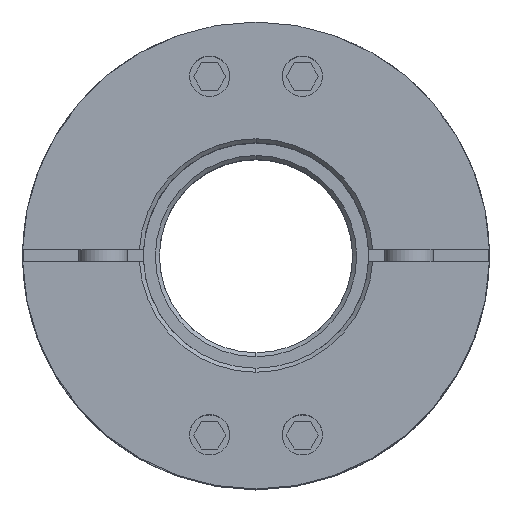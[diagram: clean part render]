
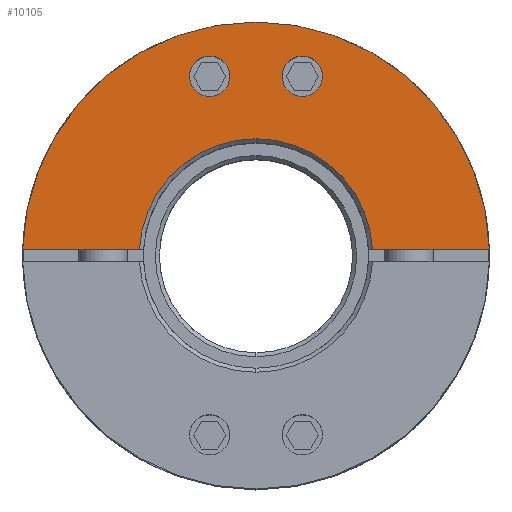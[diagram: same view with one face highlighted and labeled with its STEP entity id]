
A CAD part, top view. The second image highlights one B-rep face of the part: STEP entity #10105.
In plain terms, the highlighted planar face has unit normal (0, 0, 1).
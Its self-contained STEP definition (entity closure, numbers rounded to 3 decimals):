
#6419=CARTESIAN_POINT('',(5.759,24.767,35.75));
#6420=VERTEX_POINT('',#6419);
#6429=CARTESIAN_POINT('',(5.759,19.767,35.75));
#6430=VERTEX_POINT('',#6429);
#6431=CARTESIAN_POINT('',(5.759,22.267,35.75));
#6432=DIRECTION('',(0.0,0.0,-1.0));
#6433=DIRECTION('',(0.0,1.0,0.0));
#6434=AXIS2_PLACEMENT_3D('',#6431,#6432,#6433);
#6435=CIRCLE('',#6434,2.5);
#6436=EDGE_CURVE('',#6430,#6420,#6435,.T.);
#6461=CARTESIAN_POINT('',(-5.759,24.767,35.75));
#6462=VERTEX_POINT('',#6461);
#6471=CARTESIAN_POINT('',(-5.759,19.767,35.75));
#6472=VERTEX_POINT('',#6471);
#6473=CARTESIAN_POINT('',(-5.759,22.267,35.75));
#6474=DIRECTION('',(0.0,0.0,-1.0));
#6475=DIRECTION('',(0.0,1.0,0.0));
#6476=AXIS2_PLACEMENT_3D('',#6473,#6474,#6475);
#6477=CIRCLE('',#6476,2.5);
#6478=EDGE_CURVE('',#6472,#6462,#6477,.T.);
#6715=CARTESIAN_POINT('',(0.,29.0,35.75));
#6716=VERTEX_POINT('',#6715);
#6864=CARTESIAN_POINT('',(-28.99,0.75,35.75));
#6865=VERTEX_POINT('',#6864);
#6872=CARTESIAN_POINT('',(0.,0.0,35.75));
#6873=DIRECTION('',(0.0,0.0,-1.0));
#6874=DIRECTION('',(0.0,1.0,0.0));
#6875=AXIS2_PLACEMENT_3D('',#6872,#6873,#6874);
#6876=CIRCLE('',#6875,29.0);
#6877=EDGE_CURVE('',#6865,#6716,#6876,.T.);
#7045=CARTESIAN_POINT('',(0.,14.5,35.75));
#7046=VERTEX_POINT('',#7045);
#7062=CARTESIAN_POINT('',(14.481,0.75,35.75));
#7063=VERTEX_POINT('',#7062);
#7077=CARTESIAN_POINT('',(0.,0.0,35.75));
#7078=DIRECTION('',(0.0,0.0,1.0));
#7079=DIRECTION('',(0.0,1.0,0.0));
#7080=AXIS2_PLACEMENT_3D('',#7077,#7078,#7079);
#7081=CIRCLE('',#7080,14.5);
#7082=EDGE_CURVE('',#7063,#7046,#7081,.T.);
#9611=CARTESIAN_POINT('',(-14.481,0.75,35.75));
#9612=VERTEX_POINT('',#9611);
#9613=CARTESIAN_POINT('',(0.,0.0,35.75));
#9614=DIRECTION('',(0.0,0.0,1.0));
#9615=DIRECTION('',(0.0,1.0,0.0));
#9616=AXIS2_PLACEMENT_3D('',#9613,#9614,#9615);
#9617=CIRCLE('',#9616,14.5);
#9618=EDGE_CURVE('',#7046,#9612,#9617,.T.);
#9643=CARTESIAN_POINT('',(-28.99,0.75,35.75));
#9644=DIRECTION('',(1.0,0.0,0.0));
#9645=VECTOR('',#9644,14.51);
#9646=LINE('',#9643,#9645);
#9647=EDGE_CURVE('',#6865,#9612,#9646,.T.);
#9679=CARTESIAN_POINT('',(28.99,0.75,35.75));
#9680=VERTEX_POINT('',#9679);
#9687=CARTESIAN_POINT('',(14.481,0.75,35.75));
#9688=DIRECTION('',(1.0,0.0,0.0));
#9689=VECTOR('',#9688,14.51);
#9690=LINE('',#9687,#9689);
#9691=EDGE_CURVE('',#7063,#9680,#9690,.T.);
#9806=CARTESIAN_POINT('',(0.,0.0,35.75));
#9807=DIRECTION('',(0.0,0.0,-1.0));
#9808=DIRECTION('',(0.0,1.0,0.0));
#9809=AXIS2_PLACEMENT_3D('',#9806,#9807,#9808);
#9810=CIRCLE('',#9809,29.0);
#9811=EDGE_CURVE('',#6716,#9680,#9810,.T.);
#10044=CARTESIAN_POINT('',(-5.759,22.267,35.75));
#10045=DIRECTION('',(0.0,0.0,-1.0));
#10046=DIRECTION('',(0.0,1.0,0.0));
#10047=AXIS2_PLACEMENT_3D('',#10044,#10045,#10046);
#10048=CIRCLE('',#10047,2.5);
#10049=EDGE_CURVE('',#6462,#6472,#10048,.T.);
#10062=CARTESIAN_POINT('',(5.759,22.267,35.75));
#10063=DIRECTION('',(0.0,0.0,-1.0));
#10064=DIRECTION('',(0.0,1.0,0.0));
#10065=AXIS2_PLACEMENT_3D('',#10062,#10063,#10064);
#10066=CIRCLE('',#10065,2.5);
#10067=EDGE_CURVE('',#6420,#6430,#10066,.T.);
#10084=CARTESIAN_POINT('',(0.,2.636,35.75));
#10085=DIRECTION('',(0.0,0.0,1.0));
#10086=DIRECTION('',(0.0,1.0,0.0));
#10087=AXIS2_PLACEMENT_3D('',#10084,#10085,#10086);
#10088=PLANE('',#10087);
#10089=ORIENTED_EDGE('',*,*,#7082,.F.);
#10090=ORIENTED_EDGE('',*,*,#9691,.T.);
#10091=ORIENTED_EDGE('',*,*,#9811,.F.);
#10092=ORIENTED_EDGE('',*,*,#6877,.F.);
#10093=ORIENTED_EDGE('',*,*,#9647,.T.);
#10094=ORIENTED_EDGE('',*,*,#9618,.F.);
#10095=EDGE_LOOP('',(#10089,#10090,#10091,#10092,#10093,#10094));
#10096=FACE_OUTER_BOUND('',#10095,.T.);
#10097=ORIENTED_EDGE('',*,*,#10049,.T.);
#10098=ORIENTED_EDGE('',*,*,#6478,.T.);
#10099=EDGE_LOOP('',(#10097,#10098));
#10100=FACE_BOUND('',#10099,.T.);
#10101=ORIENTED_EDGE('',*,*,#10067,.T.);
#10102=ORIENTED_EDGE('',*,*,#6436,.T.);
#10103=EDGE_LOOP('',(#10101,#10102));
#10104=FACE_BOUND('',#10103,.T.);
#10105=ADVANCED_FACE('',(#10096,#10100,#10104),#10088,.T.);
